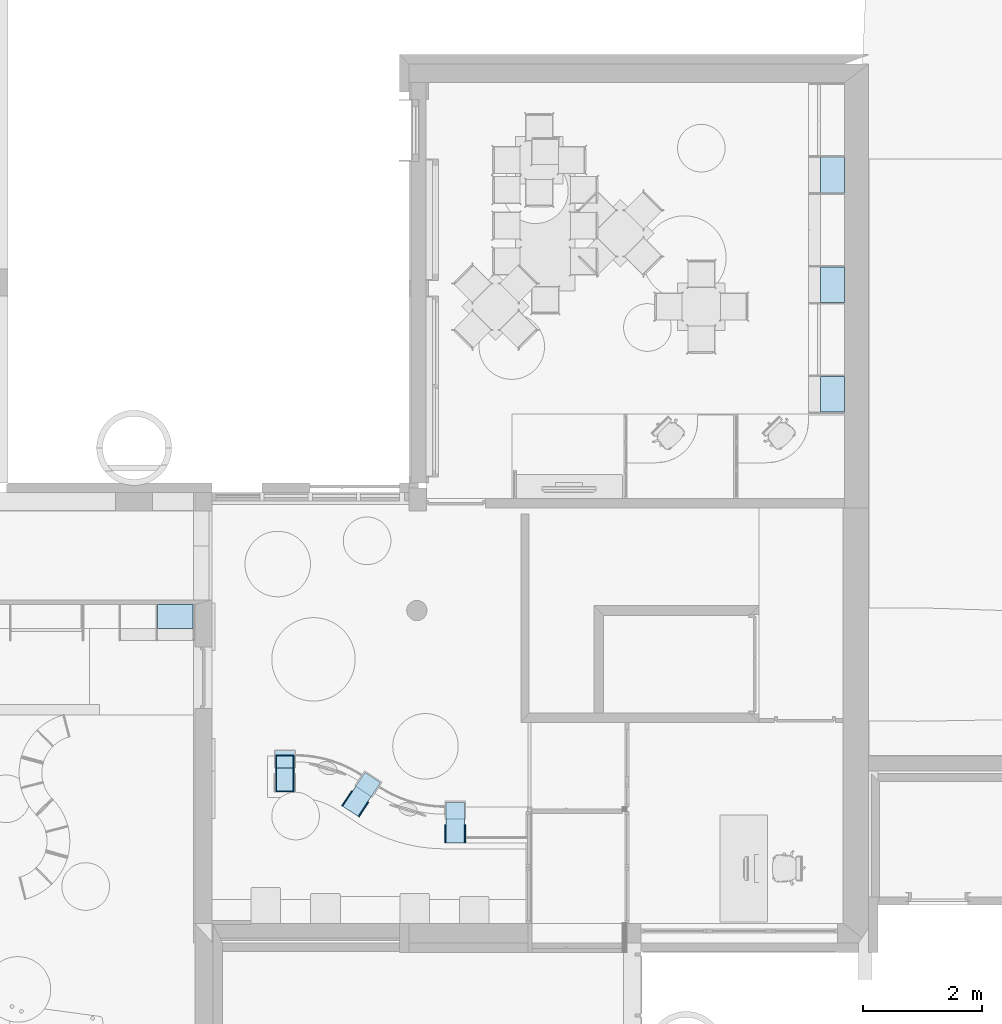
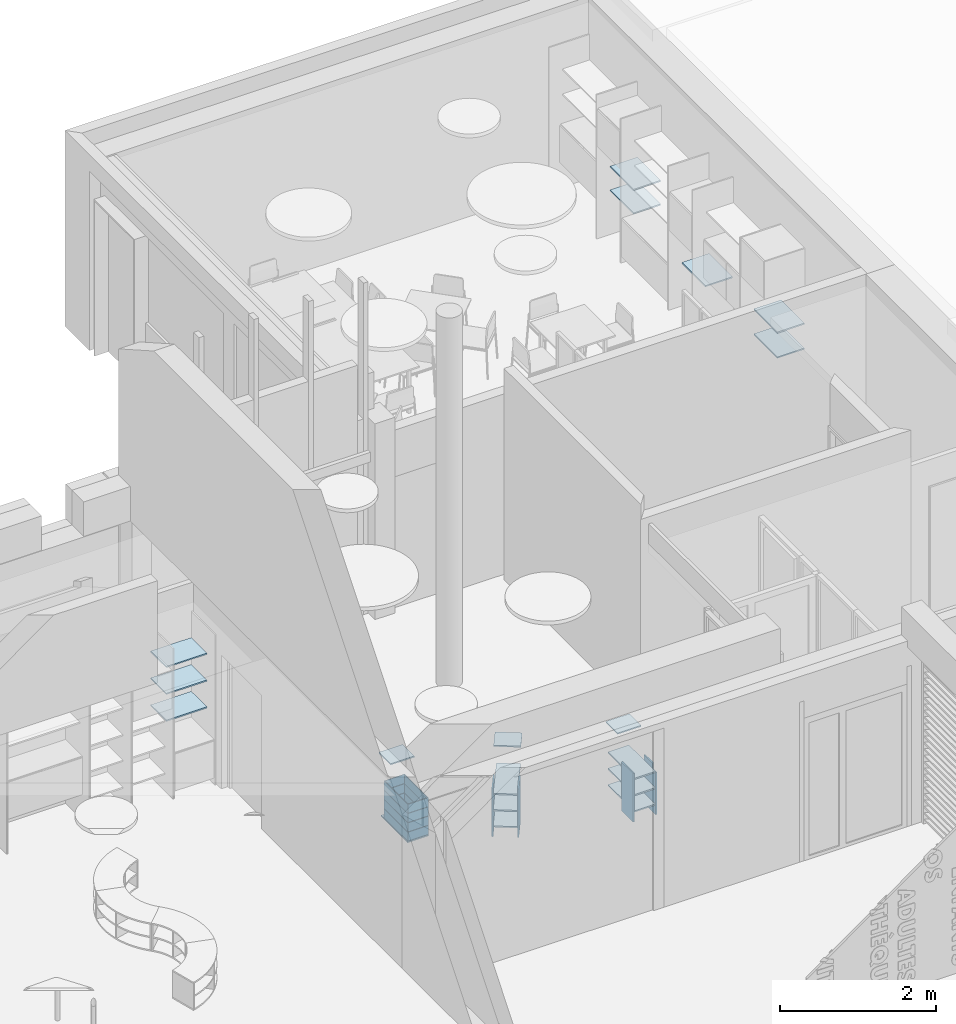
# One storey, part 17 of 64: 26 slabs, 4 openings.
"""IFC2X3 building model written with IfcOpenShell, lengths in metres."""

from ifc_helpers import new_model, entity, si_unit, converted_unit, derived_unit, direction, frame, frame_2d, origin, origin_2d_with_axis, place, context, subcontext, project, spatial, polyline, rectangle, outline, extrude, material, layer, layer_set, layer_usage, type_object, element, save


model = new_model("IFC2X3")

# Units and contexts
model_context = context("Model", 3, precision=1e-05, world=origin(), true_north=direction((6.123031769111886e-17, 1.0)))
body_context = subcontext(model_context, "Body", "Model", "MODEL_VIEW")
ifc_project = project(units=[si_unit("LENGTHUNIT", "METRE"), si_unit("AREAUNIT", "SQUARE_METRE"), si_unit("VOLUMEUNIT", "CUBIC_METRE"), converted_unit("PLANEANGLEUNIT", "DEGREE", entity("IfcRatioMeasure", 0.017453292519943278), si_unit("PLANEANGLEUNIT", "RADIAN"), dimensions=[0, 0, 0, 0, 0, 0, 0]), si_unit("MASSUNIT", "GRAM", prefix="KILO"), derived_unit("MASSDENSITYUNIT", [(si_unit("MASSUNIT", "GRAM", prefix="KILO"), 1), (si_unit("LENGTHUNIT", "METRE"), -3)]), derived_unit("MOMENTOFINERTIAUNIT", [(si_unit("LENGTHUNIT", "METRE"), 4)]), si_unit("TIMEUNIT", "SECOND"), si_unit("FREQUENCYUNIT", "HERTZ"), si_unit("THERMODYNAMICTEMPERATUREUNIT", "DEGREE_CELSIUS"), derived_unit("THERMALTRANSMITTANCEUNIT", [(si_unit("MASSUNIT", "GRAM", prefix="KILO"), 1), (si_unit("THERMODYNAMICTEMPERATUREUNIT", "KELVIN"), -1), (si_unit("TIMEUNIT", "SECOND"), -3)]), derived_unit("THERMALCONDUCTANCEUNIT", [(si_unit("MASSUNIT", "GRAM", prefix="KILO"), 1), (si_unit("LENGTHUNIT", "METRE"), 1), (si_unit("THERMODYNAMICTEMPERATUREUNIT", "KELVIN"), -1), (si_unit("TIMEUNIT", "SECOND"), -3)]), derived_unit("VOLUMETRICFLOWRATEUNIT", [(si_unit("LENGTHUNIT", "METRE"), 3), (si_unit("TIMEUNIT", "SECOND"), -1)]), derived_unit("MASSFLOWRATEUNIT", [(si_unit("MASSUNIT", "GRAM", prefix="KILO"), 1), (si_unit("TIMEUNIT", "SECOND"), -1)]), derived_unit("ROTATIONALFREQUENCYUNIT", [(si_unit("TIMEUNIT", "SECOND"), -1)]), si_unit("ELECTRICCURRENTUNIT", "AMPERE"), si_unit("ELECTRICVOLTAGEUNIT", "VOLT"), si_unit("POWERUNIT", "WATT"), si_unit("FORCEUNIT", "NEWTON", prefix="KILO"), si_unit("ILLUMINANCEUNIT", "LUX"), si_unit("LUMINOUSFLUXUNIT", "LUMEN"), si_unit("LUMINOUSINTENSITYUNIT", "CANDELA"), derived_unit("USERDEFINED", [(si_unit("MASSUNIT", "GRAM", prefix="KILO"), -1), (si_unit("LENGTHUNIT", "METRE"), -2), (si_unit("TIMEUNIT", "SECOND"), 3), (si_unit("LUMINOUSFLUXUNIT", "LUMEN"), 1)]), derived_unit("USERDEFINED", [(si_unit("MASSUNIT", "GRAM", prefix="KILO"), 1), (si_unit("LENGTHUNIT", "METRE"), 3), (si_unit("TIMEUNIT", "SECOND"), -3), (si_unit("ELECTRICCURRENTUNIT", "AMPERE"), -2)]), derived_unit("USERDEFINED", [(si_unit("LENGTHUNIT", "METRE"), 2), (si_unit("TIMEUNIT", "SECOND"), -2)]), derived_unit("SOUNDPOWERUNIT", [(si_unit("MASSUNIT", "GRAM", prefix="KILO"), 1), (si_unit("LENGTHUNIT", "METRE"), 2), (si_unit("TIMEUNIT", "SECOND"), -3)]), derived_unit("SOUNDPRESSUREUNIT", [(si_unit("MASSUNIT", "GRAM", prefix="KILO"), 1), (si_unit("LENGTHUNIT", "METRE"), -1), (si_unit("TIMEUNIT", "SECOND"), -2)]), derived_unit("LINEARVELOCITYUNIT", [(si_unit("LENGTHUNIT", "METRE"), 1), (si_unit("TIMEUNIT", "SECOND"), -1)]), si_unit("PRESSUREUNIT", "PASCAL"), derived_unit("USERDEFINED", [(si_unit("LENGTHUNIT", "METRE"), -2), (si_unit("MASSUNIT", "GRAM", prefix="KILO"), 1), (si_unit("TIMEUNIT", "SECOND"), -2)]), derived_unit("LINEARFORCEUNIT", [(si_unit("MASSUNIT", "GRAM", prefix="KILO"), 1), (si_unit("LENGTHUNIT", "METRE"), 1), (si_unit("TIMEUNIT", "SECOND"), -2), (si_unit("LENGTHUNIT", "METRE"), -1)]), derived_unit("PLANARFORCEUNIT", [(si_unit("MASSUNIT", "GRAM", prefix="KILO"), 1), (si_unit("LENGTHUNIT", "METRE"), 1), (si_unit("TIMEUNIT", "SECOND"), -2), (si_unit("LENGTHUNIT", "METRE"), -2)]), derived_unit("SPECIFICHEATCAPACITYUNIT", [(si_unit("LENGTHUNIT", "METRE"), 2), (si_unit("TIMEUNIT", "SECOND"), -2), (si_unit("THERMODYNAMICTEMPERATUREUNIT", "KELVIN"), -1)]), derived_unit("VAPORPERMEABILITYUNIT", [(si_unit("TIMEUNIT", "SECOND"), 1), (si_unit("LENGTHUNIT", "METRE"), -1)]), derived_unit("DYNAMICVISCOSITYUNIT", [(si_unit("MASSUNIT", "GRAM", prefix="KILO"), 1), (si_unit("LENGTHUNIT", "METRE"), -1), (si_unit("TIMEUNIT", "SECOND"), -1)]), derived_unit("THERMALEXPANSIONCOEFFICIENTUNIT", [(si_unit("THERMODYNAMICTEMPERATUREUNIT", "KELVIN"), -1)])], contexts=[model_context])

# Site, building, storey
site_placement = place(None, origin())
site = spatial("IfcSite", under=ifc_project, at=site_placement, Name="Default", CompositionType="ELEMENT")
building_placement = place(site_placement, origin())
building = spatial("IfcBuilding", under=site, at=building_placement, CompositionType="ELEMENT")
storey_placement = place(building_placement, origin())
storey = spatial("IfcBuildingStorey", under=building, at=storey_placement, Name="REZ-DE-CHAUSSÉE", CompositionType="ELEMENT", Elevation=0.0)

# Slabs
slab_type_1 = type_object("IfcSlabType", Name="Dalle-006", PredefinedType="FLOOR")
slab_1_placement = place(storey_placement, origin())
element("IfcSlab", 1, at=slab_1_placement, inside=storey, type_object=slab_type_1, Name="Dalle-006 200778:Dalle-006 200778", ObjectType="Dalle-006 200778:Dalle-006 200778", PredefinedType="FLOOR", context=body_context, shape_type="SweptSolid", body=[
    extrude(outline(polyline([(-0.4733333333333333, -0.1733333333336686), (0.2866666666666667, -0.1733333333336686), (0.2866666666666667, 0.046666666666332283), (0.18666666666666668, 0.046666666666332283), (0.18666666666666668, 0.12666666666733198), (-0.4733333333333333, 0.12666666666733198), (-0.4733333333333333, -0.1733333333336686)])), frame((121.61511099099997, 9.55387615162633, 0.4733333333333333), z_axis=(1.0, 0.0, 0.0), x_axis=(0.0, 0.0, 1.0)), (0.0, 0.0, 1.0), 0.02000000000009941),
])
ifc_material = material(Name="Bois - Pin granuleux horizontal")
ifc_layer_1 = layer(ifc_material, 0.02)
ifc_layer_set_1 = layer_set([ifc_layer_1], Name="Sol:Dalle-007:1415")
ifc_layer_usage_1 = layer_usage(ifc_layer_set_1, "AXIS3", "POSITIVE", 0.0)
slab_type_2 = type_object("IfcSlabType", Name="Sol:Dalle-007:1415", PredefinedType="FLOOR", material=ifc_layer_set_1)
slab_2_placement = place(storey_placement, origin())
element("IfcSlab", 2, at=slab_2_placement, inside=storey, type_object=slab_type_2, material=ifc_layer_usage_1, Name="Sol:Dalle-007:1415", ObjectType="Sol:Dalle-007:1415", PredefinedType="FLOOR", context=body_context, shape_type="SweptSolid", body=[
    extrude(rectangle(XDim=0.29999999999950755, YDim=0.34999999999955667, at=frame_2d((5.676015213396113e-15, 6.619704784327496e-15), x_axis=(1.0, 0.0))), frame((120.0031654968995, 10.415508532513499, 1.15), z_axis=(0.0, 0.0, -1.0), x_axis=(-0.551735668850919, -0.8340190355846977, 0.0)), (0.0, 0.0, 1.0), 0.020000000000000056),
])
slab_3_placement = place(storey_placement, origin())
element("IfcSlab", 3, at=slab_3_placement, inside=storey, type_object=slab_type_2, material=ifc_layer_usage_1, Name="Sol:Dalle-007:1415", ObjectType="Sol:Dalle-007:1415", PredefinedType="FLOOR", context=body_context, shape_type="SweptSolid", body=[
    extrude(rectangle(XDim=0.5999999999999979, YDim=0.3999999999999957, at=frame_2d((-2.1649348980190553e-15, -8.659739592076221e-15), x_axis=(1.0, 0.0))), frame((127.79075227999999, 20.637209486, 1.07), z_axis=(0.0, 0.0, -1.0), x_axis=(0.0, 1.0, 0.0)), (0.0, 0.0, 1.0), 0.020000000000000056),
])
slab_4_placement = place(storey_placement, origin())
element("IfcSlab", 4, at=slab_4_placement, inside=storey, type_object=slab_type_2, material=ifc_layer_usage_1, Name="Sol:Dalle-007:1415", ObjectType="Sol:Dalle-007:1415", PredefinedType="FLOOR", context=body_context, shape_type="SweptSolid", body=[
    extrude(rectangle(XDim=0.5999999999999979, YDim=0.3999999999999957, at=frame_2d((-2.1649348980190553e-15, -8.659739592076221e-15), x_axis=(1.0, 0.0))), frame((127.79075227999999, 20.637209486, 0.7), z_axis=(0.0, 0.0, -1.0), x_axis=(0.0, 1.0, 0.0)), (0.0, 0.0, 1.0), 0.020000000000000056),
])
slab_5_placement = place(storey_placement, origin())
element("IfcSlab", 5, at=slab_5_placement, inside=storey, type_object=slab_type_2, material=ifc_layer_usage_1, Name="Sol:Dalle-007:1415", ObjectType="Sol:Dalle-007:1415", PredefinedType="FLOOR", context=body_context, shape_type="SweptSolid", body=[
    extrude(rectangle(XDim=0.6000000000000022, YDim=0.3999999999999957, at=frame_2d((0.0, -8.659739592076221e-15), x_axis=(1.0, 0.0))), frame((127.79075227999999, 18.797209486, 0.68), z_axis=(0.0, 0.0, -1.0), x_axis=(0.0, 1.0, 0.0)), (0.0, 0.0, 1.0), 0.020000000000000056),
])
slab_6_placement = place(storey_placement, origin())
element("IfcSlab", 6, at=slab_6_placement, inside=storey, type_object=slab_type_2, material=ifc_layer_usage_1, Name="Sol:Dalle-007:1415", ObjectType="Sol:Dalle-007:1415", PredefinedType="FLOOR", context=body_context, shape_type="SweptSolid", body=[
    extrude(rectangle(XDim=0.6000000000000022, YDim=0.3999999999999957, at=frame_2d((0.0, -8.659739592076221e-15), x_axis=(1.0, 0.0))), frame((127.79075227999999, 16.957209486, 1.07), z_axis=(0.0, 0.0, -1.0), x_axis=(0.0, 1.0, 0.0)), (0.0, 0.0, 1.0), 0.020000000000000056),
])
slab_7_placement = place(storey_placement, origin())
element("IfcSlab", 7, at=slab_7_placement, inside=storey, type_object=slab_type_2, material=ifc_layer_usage_1, Name="Sol:Dalle-007:1415", ObjectType="Sol:Dalle-007:1415", PredefinedType="FLOOR", context=body_context, shape_type="SweptSolid", body=[
    extrude(rectangle(XDim=0.6000000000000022, YDim=0.3999999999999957, at=frame_2d((0.0, -8.659739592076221e-15), x_axis=(1.0, 0.0))), frame((127.79075227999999, 16.957209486, 0.68), z_axis=(0.0, 0.0, -1.0), x_axis=(0.0, 1.0, 0.0)), (0.0, 0.0, 1.0), 0.020000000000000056),
])
slab_8_placement = place(storey_placement, origin())
element("IfcSlab", 8, at=slab_8_placement, inside=storey, type_object=slab_type_2, material=ifc_layer_usage_1, Name="Sol:Dalle-007:1415", ObjectType="Sol:Dalle-007:1415", PredefinedType="FLOOR", context=body_context, shape_type="SweptSolid", body=[
    extrude(rectangle(XDim=0.3000000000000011, YDim=0.34999999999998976, at=origin_2d_with_axis()), frame((118.60139356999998, 10.837209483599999, 1.15), z_axis=(0.0, 0.0, -1.0), x_axis=(0.0, 1.0, 0.0)), (0.0, 0.0, 1.0), 0.020000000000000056),
])
slab_9_placement = place(storey_placement, origin())
element("IfcSlab", 9, at=slab_9_placement, inside=storey, type_object=slab_type_2, material=ifc_layer_usage_1, Name="Sol:Dalle-007:1415", ObjectType="Sol:Dalle-007:1415", PredefinedType="FLOOR", context=body_context, shape_type="SweptSolid", body=[
    extrude(rectangle(XDim=0.3000000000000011, YDim=0.34999999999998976, at=origin_2d_with_axis()), frame((121.46011099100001, 9.977209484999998, 1.15), z_axis=(0.0, 0.0, -1.0), x_axis=(0.0, 1.0, 0.0)), (0.0, 0.0, 1.0), 0.020000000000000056),
])
slab_10_placement = place(storey_placement, origin())
element("IfcSlab", 10, at=slab_10_placement, inside=storey, type_object=slab_type_2, material=ifc_layer_usage_1, Name="Sol:Dalle-007:1415", ObjectType="Sol:Dalle-007:1415", PredefinedType="FLOOR", context=body_context, shape_type="SweptSolid", body=[
    extrude(rectangle(XDim=0.6800000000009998, YDim=0.3100000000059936, at=frame_2d((1.0824674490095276e-15, 0.0), x_axis=(1.0, 0.0))), frame((118.60139357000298, 10.627209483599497, 0.17), z_axis=(0.0, 0.0, -1.0), x_axis=(0.0, 1.0, 0.0)), (0.0, 0.0, 1.0), 0.020000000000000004),
])
slab_11_placement = place(storey_placement, origin())
element("IfcSlab", 11, at=slab_11_placement, inside=storey, type_object=slab_type_2, material=ifc_layer_usage_1, Name="Sol:Dalle-007:1415", ObjectType="Sol:Dalle-007:1415", PredefinedType="FLOOR", context=body_context, shape_type="SweptSolid", body=[
    extrude(rectangle(XDim=0.6800000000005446, YDim=0.3100000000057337, at=frame_2d((4.773959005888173e-15, 7.244205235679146e-15), x_axis=(1.0, 0.0))), frame((119.8873010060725, 10.240364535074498, 0.17), z_axis=(0.0, 0.0, -1.0), x_axis=(-0.5517356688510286, -0.8340190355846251, 0.0)), (0.0, 0.0, 1.0), 0.020000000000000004),
])
slab_12_placement = place(storey_placement, origin())
element("IfcSlab", 12, at=slab_12_placement, inside=storey, type_object=slab_type_2, material=ifc_layer_usage_1, Name="Sol:Dalle-007:1415", ObjectType="Sol:Dalle-007:1415", PredefinedType="FLOOR", context=body_context, shape_type="SweptSolid", body=[
    extrude(rectangle(XDim=0.6800000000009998, YDim=0.3100000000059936, at=frame_2d((1.0824674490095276e-15, 0.0), x_axis=(1.0, 0.0))), frame((121.460110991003, 9.767209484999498, 0.17), z_axis=(0.0, 0.0, -1.0), x_axis=(0.0, 1.0, 0.0)), (0.0, 0.0, 1.0), 0.020000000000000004),
])
slab_13_placement = place(storey_placement, origin())
element("IfcSlab", 13, at=slab_13_placement, inside=storey, type_object=slab_type_2, material=ifc_layer_usage_1, Name="Sol:Dalle-007:1415", ObjectType="Sol:Dalle-007:1415", PredefinedType="FLOOR", context=body_context, shape_type="SweptSolid", body=[
    extrude(rectangle(XDim=0.6800000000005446, YDim=0.3100000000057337, at=frame_2d((4.773959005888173e-15, 7.244205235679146e-15), x_axis=(1.0, 0.0))), frame((119.8873010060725, 10.240364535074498, 0.425), z_axis=(0.0, 0.0, -1.0), x_axis=(-0.5517356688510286, -0.8340190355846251, 0.0)), (0.0, 0.0, 1.0), 0.019999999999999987),
])
slab_14_placement = place(storey_placement, origin())
element("IfcSlab", 14, at=slab_14_placement, inside=storey, type_object=slab_type_2, material=ifc_layer_usage_1, Name="Sol:Dalle-007:1415", ObjectType="Sol:Dalle-007:1415", PredefinedType="FLOOR", context=body_context, shape_type="SweptSolid", body=[
    extrude(rectangle(XDim=0.6800000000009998, YDim=0.3100000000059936, at=frame_2d((1.0824674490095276e-15, 0.0), x_axis=(1.0, 0.0))), frame((121.460110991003, 9.767209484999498, 0.68), z_axis=(0.0, 0.0, -1.0), x_axis=(0.0, 1.0, 0.0)), (0.0, 0.0, 1.0), 0.020000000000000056),
])
slab_15_placement = place(storey_placement, origin())
element("IfcSlab", 15, at=slab_15_placement, inside=storey, type_object=slab_type_2, material=ifc_layer_usage_1, Name="Sol:Dalle-007:1415", ObjectType="Sol:Dalle-007:1415", PredefinedType="FLOOR", context=body_context, shape_type="SweptSolid", body=[
    extrude(rectangle(XDim=0.6800000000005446, YDim=0.3100000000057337, at=frame_2d((4.773959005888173e-15, 7.244205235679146e-15), x_axis=(1.0, 0.0))), frame((119.8873010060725, 10.240364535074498, 0.68), z_axis=(0.0, 0.0, -1.0), x_axis=(-0.5517356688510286, -0.8340190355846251, 0.0)), (0.0, 0.0, 1.0), 0.020000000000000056),
])
slab_16_placement = place(storey_placement, origin())
element("IfcSlab", 16, at=slab_16_placement, inside=storey, type_object=slab_type_2, material=ifc_layer_usage_1, Name="Sol:Dalle-007:1415", ObjectType="Sol:Dalle-007:1415", PredefinedType="FLOOR", context=body_context, shape_type="SweptSolid", body=[
    extrude(rectangle(XDim=0.6800000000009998, YDim=0.3100000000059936, at=frame_2d((1.0824674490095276e-15, 0.0), x_axis=(1.0, 0.0))), frame((121.460110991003, 9.767209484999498, 0.425), z_axis=(0.0, 0.0, -1.0), x_axis=(0.0, 1.0, 0.0)), (0.0, 0.0, 1.0), 0.019999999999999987),
])
slab_17_placement = place(storey_placement, origin())
element("IfcSlab", 17, at=slab_17_placement, inside=storey, type_object=slab_type_2, material=ifc_layer_usage_1, Name="Sol:Dalle-007:1415", ObjectType="Sol:Dalle-007:1415", PredefinedType="FLOOR", context=body_context, shape_type="SweptSolid", body=[
    extrude(rectangle(XDim=0.4, YDim=0.6000000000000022, at=origin_2d_with_axis()), frame((116.76075228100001, 13.2272094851, 1.94), z_axis=(0.0, 0.0, -1.0), x_axis=(0.0, 1.0, 0.0)), (0.0, 0.0, 1.0), 0.020000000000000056),
])
slab_18_placement = place(storey_placement, origin())
element("IfcSlab", 18, at=slab_18_placement, inside=storey, type_object=slab_type_2, material=ifc_layer_usage_1, Name="Sol:Dalle-007:1415", ObjectType="Sol:Dalle-007:1415", PredefinedType="FLOOR", context=body_context, shape_type="SweptSolid", body=[
    extrude(rectangle(XDim=0.4, YDim=0.6000000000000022, at=origin_2d_with_axis()), frame((116.76075228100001, 13.2272094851, 1.5199999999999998), z_axis=(0.0, 0.0, -1.0), x_axis=(0.0, 1.0, 0.0)), (0.0, 0.0, 1.0), 0.020000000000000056),
])
slab_19_placement = place(storey_placement, origin())
element("IfcSlab", 19, at=slab_19_placement, inside=storey, type_object=slab_type_2, material=ifc_layer_usage_1, Name="Sol:Dalle-007:1415", ObjectType="Sol:Dalle-007:1415", PredefinedType="FLOOR", context=body_context, shape_type="SweptSolid", body=[
    extrude(rectangle(XDim=0.4, YDim=0.6000000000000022, at=origin_2d_with_axis()), frame((116.76075228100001, 13.2272094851, 1.1), z_axis=(0.0, 0.0, -1.0), x_axis=(0.0, 1.0, 0.0)), (0.0, 0.0, 1.0), 0.020000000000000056),
])
ifc_layer_2 = layer(ifc_material, 0.7599999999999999)
ifc_layer_set_2 = layer_set([ifc_layer_2], Name="Sol:Dalle-006:1525")
ifc_layer_usage_2 = layer_usage(ifc_layer_set_2, "AXIS3", "POSITIVE", 0.0)
slab_type_3 = type_object("IfcSlabType", Name="Sol:Dalle-006:1525", PredefinedType="FLOOR", material=ifc_layer_set_2)
slab_20_placement = place(storey_placement, origin())
element("IfcSlab", 20, at=slab_20_placement, inside=storey, type_object=slab_type_3, material=ifc_layer_usage_2, Name="Sol:Dalle-006:1525", ObjectType="Sol:Dalle-006:1525", PredefinedType="FLOOR", context=body_context, shape_type="SweptSolid", body=[
    extrude(rectangle(XDim=0.3000000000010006, YDim=0.019999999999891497, at=frame_2d((-5.412337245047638e-16, 0.0), x_axis=(1.0, 0.0))), frame((121.29511099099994, 9.5772094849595, 0.7599999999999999), z_axis=(0.0, 0.0, -1.0), x_axis=(0.0, 1.0, 0.0)), (0.0, 0.0, 1.0), 0.7599999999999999),
])
slab_21_placement = place(storey_placement, origin())
element("IfcSlab", 21, at=slab_21_placement, inside=storey, type_object=slab_type_3, material=ifc_layer_usage_2, Name="Sol:Dalle-006:1525", ObjectType="Sol:Dalle-006:1525", PredefinedType="FLOOR", context=body_context, shape_type="SweptSolid", body=[
    extrude(rectangle(XDim=0.3000000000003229, YDim=0.02000000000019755, at=frame_2d((1.516703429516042e-13, 3.5449074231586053e-15), x_axis=(1.0, 0.0))), frame((119.64485808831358, 10.172937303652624, 0.7599999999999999), z_axis=(0.0, 0.0, -1.0), x_axis=(-0.5517356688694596, -0.8340190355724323, 0.0)), (0.0, 0.0, 1.0), 0.7599999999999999),
])
slab_22_placement = place(storey_placement, origin())
element("IfcSlab", 22, at=slab_22_placement, inside=storey, type_object=slab_type_3, material=ifc_layer_usage_2, Name="Sol:Dalle-006:1525", ObjectType="Sol:Dalle-006:1525", PredefinedType="FLOOR", context=body_context, shape_type="SweptSolid", body=[
    extrude(rectangle(XDim=0.30000000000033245, YDim=0.01999999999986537, at=frame_2d((3.5665914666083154e-14, 1.010407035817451e-13), x_axis=(1.0, 0.0))), frame((119.9200843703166, 9.990864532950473, 0.7599999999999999), z_axis=(0.0, 0.0, -1.0), x_axis=(-0.551735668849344, -0.8340190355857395, 0.0)), (0.0, 0.0, 1.0), 0.7599999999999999),
])

# Slab, opening
ifc_layer_3 = layer(ifc_material, 0.14)
ifc_layer_set_3 = layer_set([ifc_layer_3], Name="Sol:Dalle-006:1526")
ifc_layer_usage_3 = layer_usage(ifc_layer_set_3, "AXIS3", "POSITIVE", 0.0)
slab_type_4 = type_object("IfcSlabType", Name="Sol:Dalle-006:1526", PredefinedType="FLOOR", material=ifc_layer_set_3)
slab_23_placement = place(storey_placement, frame((118.44839357, 10.2872094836, 0.17500000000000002)))
slab_23 = element("IfcSlab", 23, at=slab_23_placement, inside=storey, type_object=slab_type_4, material=ifc_layer_usage_3, Name="Sol:Dalle-006:1526", ObjectType="Sol:Dalle-006:1526", PredefinedType="FLOOR", context=body_context, shape_type="SweptSolid", body=[
    extrude(rectangle(XDim=0.3060000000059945, YDim=0.61, at=frame_2d((0.0, 0.0), x_axis=(-1.0, 0.0))), frame((0.15300000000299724, 0.305, 0.13999999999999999), z_axis=(0.0, 0.0, -1.0), x_axis=(-1.0, 0.0, 0.0)), (0.0, 0.0, 1.0), 0.13999999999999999),
])
opening_1_placement = place(slab_23_placement, frame((0.1530000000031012, 0.305, 0.13999999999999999)))
element("IfcOpeningElement", 24, at=opening_1_placement, cuts=slab_23, Name="Sol:Dalle-006:1526:2", ObjectType="Opening", context=body_context, shape_type="SweptSolid", body=[
    extrude(rectangle(XDim=0.28600000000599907, YDim=0.5900000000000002, at=origin_2d_with_axis()), frame((0.0, 0.0, 0.0), z_axis=(0.0, 0.0, -1.0), x_axis=(-1.0, 0.0, 0.0)), (0.0, 0.0, 1.0), 0.13999999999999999),
])

slab_24_placement = place(storey_placement, frame((118.44839357, 10.2872094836, 0.32)))
slab_24 = element("IfcSlab", 25, at=slab_24_placement, inside=storey, type_object=slab_type_4, material=ifc_layer_usage_3, Name="Sol:Dalle-006:1526", ObjectType="Sol:Dalle-006:1526", PredefinedType="FLOOR", context=body_context, shape_type="SweptSolid", body=[
    extrude(rectangle(XDim=0.3060000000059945, YDim=0.61, at=frame_2d((0.0, 0.0), x_axis=(-1.0, 0.0))), frame((0.15300000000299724, 0.305, 0.13999999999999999), z_axis=(0.0, 0.0, -1.0), x_axis=(-1.0, 0.0, 0.0)), (0.0, 0.0, 1.0), 0.13999999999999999),
])
opening_2_placement = place(slab_24_placement, frame((0.1530000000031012, 0.305, 0.13999999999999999)))
element("IfcOpeningElement", 26, at=opening_2_placement, cuts=slab_24, Name="Sol:Dalle-006:1526:2", ObjectType="Opening", context=body_context, shape_type="SweptSolid", body=[
    extrude(rectangle(XDim=0.28600000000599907, YDim=0.5900000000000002, at=origin_2d_with_axis()), frame((0.0, 0.0, 0.0), z_axis=(0.0, 0.0, -1.0), x_axis=(-1.0, 0.0, 0.0)), (0.0, 0.0, 1.0), 0.13999999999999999),
])

slab_25_placement = place(storey_placement, frame((118.44839357, 10.2872094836, 0.46499999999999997)))
slab_25 = element("IfcSlab", 27, at=slab_25_placement, inside=storey, type_object=slab_type_4, material=ifc_layer_usage_3, Name="Sol:Dalle-006:1526", ObjectType="Sol:Dalle-006:1526", PredefinedType="FLOOR", context=body_context, shape_type="SweptSolid", body=[
    extrude(rectangle(XDim=0.3060000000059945, YDim=0.61, at=frame_2d((0.0, 0.0), x_axis=(-1.0, 0.0))), frame((0.15300000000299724, 0.305, 0.13999999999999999), z_axis=(0.0, 0.0, -1.0), x_axis=(-1.0, 0.0, 0.0)), (0.0, 0.0, 1.0), 0.13999999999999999),
])
opening_3_placement = place(slab_25_placement, frame((0.1530000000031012, 0.305, 0.13999999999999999)))
element("IfcOpeningElement", 28, at=opening_3_placement, cuts=slab_25, Name="Sol:Dalle-006:1526:2", ObjectType="Opening", context=body_context, shape_type="SweptSolid", body=[
    extrude(rectangle(XDim=0.28600000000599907, YDim=0.5900000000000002, at=origin_2d_with_axis()), frame((0.0, 0.0, 0.0), z_axis=(0.0, 0.0, -1.0), x_axis=(-1.0, 0.0, 0.0)), (0.0, 0.0, 1.0), 0.13999999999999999),
])

slab_26_placement = place(storey_placement, frame((118.44839357, 10.2872094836, 0.61)))
slab_26 = element("IfcSlab", 29, at=slab_26_placement, inside=storey, type_object=slab_type_4, material=ifc_layer_usage_3, Name="Sol:Dalle-006:1526", ObjectType="Sol:Dalle-006:1526", PredefinedType="FLOOR", context=body_context, shape_type="SweptSolid", body=[
    extrude(rectangle(XDim=0.3060000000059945, YDim=0.61, at=frame_2d((0.0, 0.0), x_axis=(-1.0, 0.0))), frame((0.15300000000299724, 0.305, 0.13999999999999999), z_axis=(0.0, 0.0, -1.0), x_axis=(-1.0, 0.0, 0.0)), (0.0, 0.0, 1.0), 0.13999999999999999),
])
opening_4_placement = place(slab_26_placement, frame((0.1530000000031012, 0.305, 0.13999999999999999)))
element("IfcOpeningElement", 30, at=opening_4_placement, cuts=slab_26, Name="Sol:Dalle-006:1526:2", ObjectType="Opening", context=body_context, shape_type="SweptSolid", body=[
    extrude(rectangle(XDim=0.28600000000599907, YDim=0.5900000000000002, at=origin_2d_with_axis()), frame((0.0, 0.0, 0.0), z_axis=(0.0, 0.0, -1.0), x_axis=(-1.0, 0.0, 0.0)), (0.0, 0.0, 1.0), 0.13999999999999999),
])

save(model, "model.ifc")
